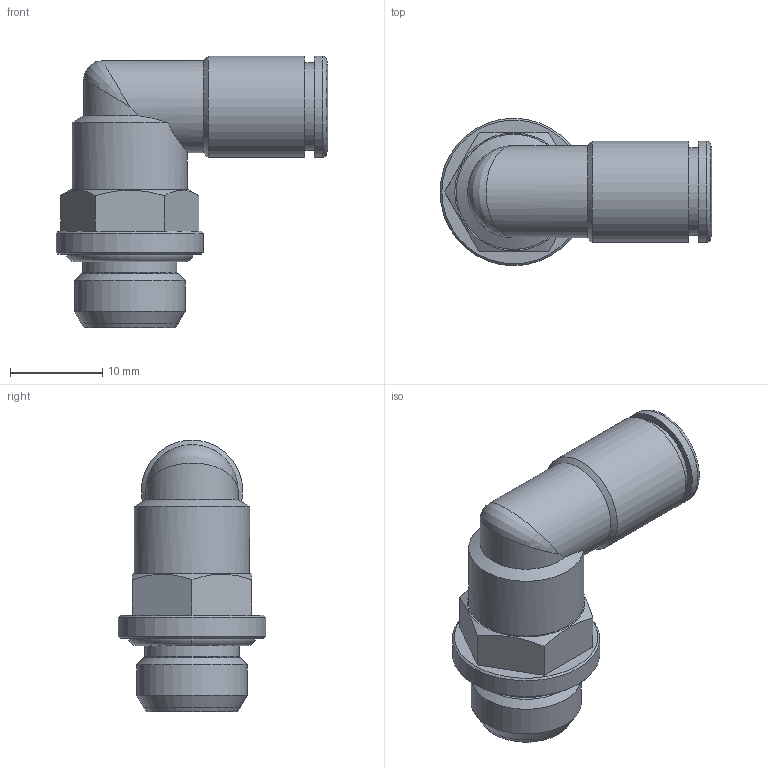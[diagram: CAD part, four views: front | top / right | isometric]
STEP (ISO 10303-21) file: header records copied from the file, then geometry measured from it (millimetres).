
FILE_DESCRIPTION(('Bauteilbeschreibung','HiCAD-Model','HiCAD-STEP-TRANSLATION','Bauteilbeschreibung'),'2;1');
FILE_NAME('B:/ABGLEICH/ZEICHNUNGEN/STEP FÜR INTERNET/STEP/IPSO 022/202218_IPSO_022_6_M12X1,25.STP','2012-02-07T10:34:17+00:00',('Konstrukteur'),('Konstrukteur Firma GmbH'),' HiCAD neXt 2008, Step 3.1.1401.2J ','HiCAD neXt 2008','confidential');
FILE_SCHEMA(('AUTOMOTIVE_DESIGN { 1 2 10303 214 0 1 1 1 }'));
Length unit declared in the file: millimetre
Products named in the file (7): A02218_IPSO_022_6_M12X1_25; OR 10X1_8; DR6_1_NEU; R202203_N2; A14641_N2; A146410N2; DIN 13_M12X1_25
Assembly tree (6 placements, depth 3):
  A02218_IPSO_022_6_M12X1_25
    OR 10X1_8
    DR6_1_NEU
    R202203_N2
    A14641_N2
    A146410N2
      DIN 13_M12X1_25
Bounding box: 29.5 x 16 x 29.5 mm (x, y, z)
Volume: 3228.4 mm3; surface area: 4555.4 mm2
Topology: 5 solids, 5 shells, 76 faces, 165 edges, 100 vertices
Faces by surface type: cylinder 24, cone 24, plane 20, torus 7, bspline 1
Full cylindrical faces by diameter (mm): 4 x1, 5.5 x1, 6 x1, 6.1 x1, 6.2 x1, 7.5 x1, 8.3 x1, 9 x3, 9.5 x1, 9.6 x1, 10 x1, 10.1 x2, 10.2 x1, 10.466 x2, 11 x2, 12 x1, 12.5 x1, 16 x1
Entity records: 3384 total; most frequent: CARTESIAN_POINT 1412, DIRECTION 330, ORIENTED_EDGE 192, AXIS2_PLACEMENT_3D 159, EDGE_LOOP 139, EDGE_CURVE 96, COLOUR_RGB 87, PRESENTATION_STYLE_ASSIGNMENT 87
